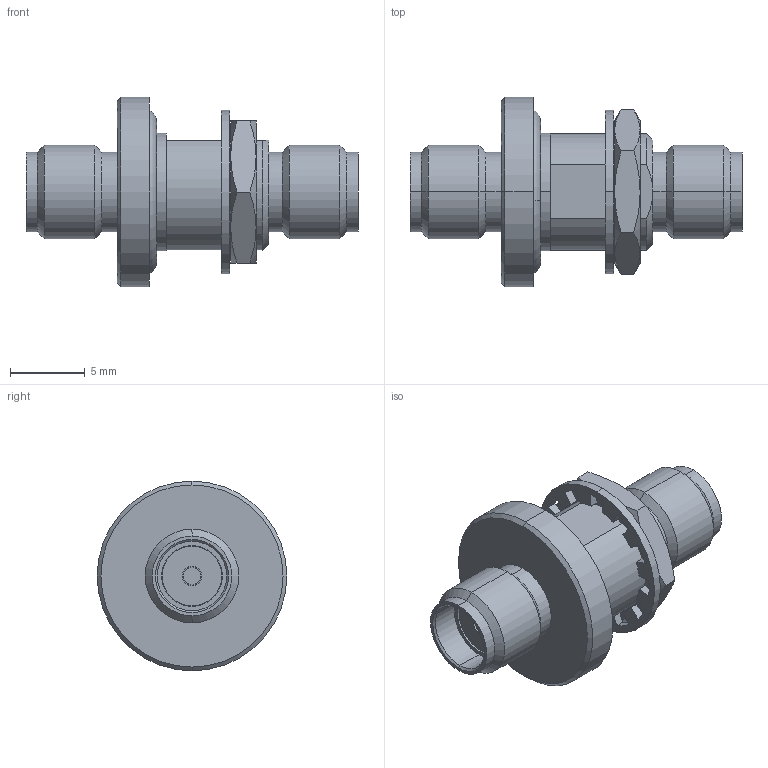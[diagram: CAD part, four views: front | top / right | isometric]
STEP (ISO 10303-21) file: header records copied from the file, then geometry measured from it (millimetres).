
FILE_DESCRIPTION (( 'STEP AP203' ), '1' );
FILE_NAME ('2991-6002.STEP', '2015-04-29T15:36:26', ( '' ), ( '' ), 'SwSTEP 2.0', 'SolidWorks 2014', '' );
FILE_SCHEMA (( 'CONFIG_CONTROL_DESIGN' ));
Length unit declared in the file: inch
Products named in the file (1): 2991-6002
Bounding box: 22.23 x 12.7 x 12.7 mm (x, y, z)
Surface area: 1649.6 mm2 (no closed solid volume)
Topology: 0 solids, 11 shells, 134 faces, 357 edges, 232 vertices
Faces by surface type: plane 52, cylinder 47, cone 31, torus 4
Entity records: 4325 total; most frequent: CARTESIAN_POINT 854, DIRECTION 766, ORIENTED_EDGE 634, EDGE_CURVE 357, AXIS2_PLACEMENT_3D 300, VERTEX_POINT 232, LINE 166, VECTOR 166
